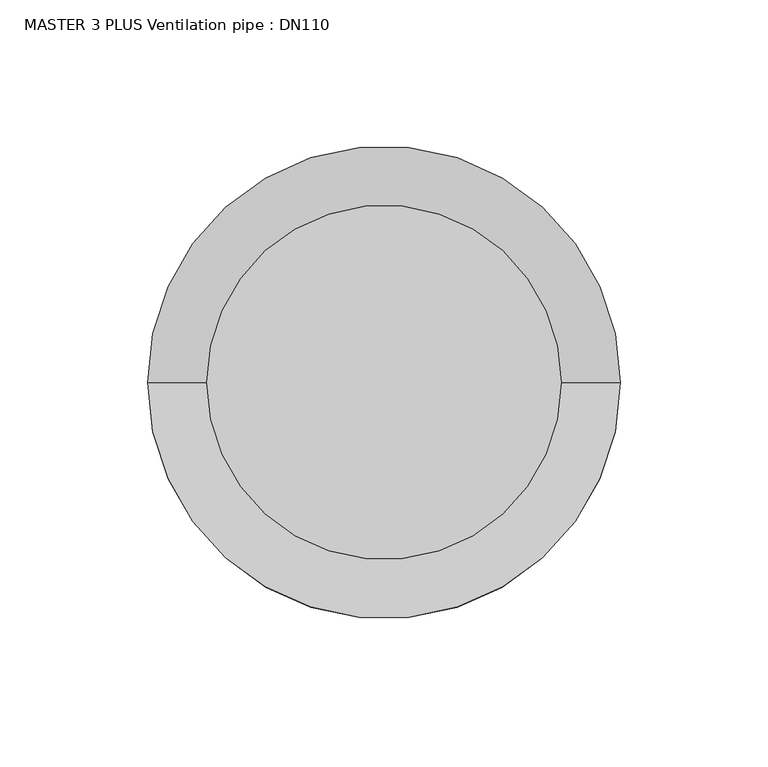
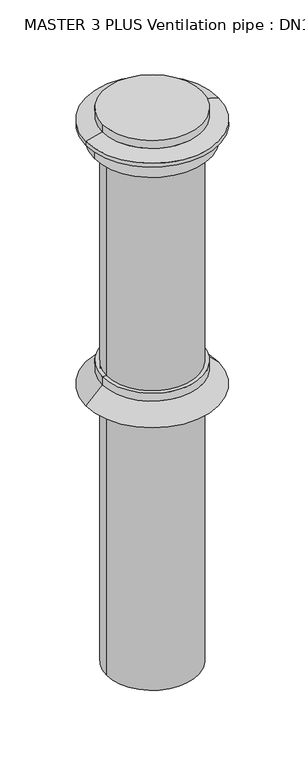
"""IFC4 building model written with IfcOpenShell, lengths in millimetres: valve geometry, MASTER 3 PLUS Ventilation pipe : DN110."""

from ifc_helpers import new_model, si_unit, frame, origin, origin_with_axes, place, context, project, spatial, polyline, circle_curve, source, transform, mapped, element, save
from ifc_brep_helpers import plane_surface, cylinder_surface, revolved_surface, advanced_brep


def master_3_plus_ventilation_pipe_dn110_6ec2a00a(model_context):
    return source(origin(), model_context, "Body", "AdvancedBrep", [
        advanced_brep(
        [(60.0, 0.0, 705.0), (-60.0, 0.0, 705.0), (-55.0, 0.0, 0.0), (55.0, 0.0, 0.0), (55.0, 0.0, 664.8236191), (-55.0, 0.0, 664.8236191), (60.0, 0.0, 695.0), (-60.0, 0.0, 695.0), (80.0, 0.0, 689.8236191), (-80.0, 0.0, 689.8236191), (80.0, 0.0, 684.8236191), (-80.0, 0.0, 684.8236191), (70.0, 0.0, 684.8236191), (-70.0, 0.0, 684.8236191), (70.0, 0.0, 664.8236191), (-70.0, 0.0, 664.8236191)],
        [
            (0, 1, circle_curve(frame((0.0, 0.0, 705.0), z_axis=(0.0, 0.0, 1.0), x_axis=(-1.0, 0.0, 0.0)), 60.0)),
            (1, 0, circle_curve(frame((0.0, 0.0, 705.0), z_axis=(0.0, 0.0, 1.0), x_axis=(-1.0, 0.0, 0.0)), 60.0)),
            (2, 3, circle_curve(frame((0.0, 0.0, 0.0), z_axis=(0.0, 0.0, -1.0), x_axis=(1.0, 0.0, 0.0)), 55.0)),
            (3, 2, circle_curve(frame((0.0, 0.0, 0.0), z_axis=(0.0, 0.0, -1.0), x_axis=(1.0, 0.0, 0.0)), 55.0)),
            (3, 4),
            (4, 5, circle_curve(frame((0.0, 0.0, 664.8236191), z_axis=(0.0, 0.0, -1.0), x_axis=(1.0, 0.0, 0.0)), 55.0)),
            (5, 2),
            (5, 4, circle_curve(frame((0.0, 0.0, 664.8236191), z_axis=(0.0, 0.0, -1.0), x_axis=(1.0, 0.0, 0.0)), 55.0)),
            (6, 7, circle_curve(frame((0.0, 0.0, 695.0), z_axis=(0.0, 0.0, 1.0), x_axis=(-1.0, 0.0, 0.0)), 60.0)),
            (7, 1),
            (0, 6),
            (7, 6, circle_curve(frame((0.0, 0.0, 695.0), z_axis=(0.0, 0.0, 1.0), x_axis=(-1.0, 0.0, 0.0)), 60.0)),
            (6, 8),
            (8, 9, circle_curve(frame((0.0, 0.0, 689.8236191), z_axis=(0.0, 0.0, 1.0), x_axis=(-1.0, 0.0, 0.0)), 80.0)),
            (9, 7),
            (9, 8, circle_curve(frame((0.0, 0.0, 689.8236191), z_axis=(0.0, 0.0, 1.0), x_axis=(-1.0, 0.0, 0.0)), 80.0)),
            (8, 10),
            (10, 11, circle_curve(frame((0.0, 0.0, 684.8236191), z_axis=(0.0, 0.0, 1.0), x_axis=(-1.0, 0.0, 0.0)), 80.0)),
            (11, 9),
            (11, 10, circle_curve(frame((0.0, 0.0, 684.8236191), z_axis=(0.0, 0.0, 1.0), x_axis=(-1.0, 0.0, 0.0)), 80.0)),
            (10, 12),
            (12, 13, circle_curve(frame((0.0, 0.0, 684.8236191), z_axis=(0.0, 0.0, 1.0), x_axis=(-1.0, 0.0, 0.0)), 70.0)),
            (13, 11),
            (13, 12, circle_curve(frame((0.0, 0.0, 684.8236191), z_axis=(0.0, 0.0, 1.0), x_axis=(-1.0, 0.0, 0.0)), 70.0)),
            (12, 14),
            (14, 15, circle_curve(frame((0.0, 0.0, 664.8236191), z_axis=(0.0, 0.0, 1.0), x_axis=(-1.0, 0.0, 0.0)), 70.0)),
            (15, 13),
            (15, 14, circle_curve(frame((0.0, 0.0, 664.8236191), z_axis=(0.0, 0.0, 1.0), x_axis=(-1.0, 0.0, 0.0)), 70.0)),
            (14, 4),
            (5, 15),
        ],
        [
            plane_surface(frame((55.0, 0.0, 705.0), z_axis=(0.0, 0.0, 1.0), x_axis=(0.0, 1.0, 0.0))),
            plane_surface(frame((55.0, 0.0, 0.0), z_axis=(0.0, 0.0, -1.0), x_axis=(0.0, -1.0, 0.0))),
            cylinder_surface(origin_with_axes(), 55.0),
            cylinder_surface(frame((0.0, 0.0, 705.0), z_axis=(0.0, 0.0, -1.0), x_axis=(-1.0, 0.0, 0.0)), 60.0),
            revolved_surface(polyline([(-60.0, 0.0, 695.0), (-80.0, 0.0, 689.8236191)]), (0.0, 0.0, 705.0), (0.0, 0.0, -1.0)),
            cylinder_surface(frame((0.0, 0.0, 705.0), z_axis=(0.0, 0.0, -1.0), x_axis=(-1.0, 0.0, 0.0)), 80.0),
            plane_surface(frame((0.0, 0.0, 684.8236191), z_axis=(0.0, 0.0, -1.0), x_axis=(-1.0, 0.0, 0.0))),
            cylinder_surface(frame((0.0, 0.0, 705.0), z_axis=(0.0, 0.0, -1.0), x_axis=(-1.0, 0.0, 0.0)), 70.0),
            plane_surface(frame((0.0, 0.0, 664.8236191), z_axis=(0.0, 0.0, -1.0), x_axis=(-1.0, 0.0, 0.0))),
        ],
        [
            (0, [[1, 2]]),
            (1, [[3, 4]]),
            (2, [[-4, 5, 6, 7]]),
            (2, [[-3, -7, 8, -5]]),
            (3, [[9, 10, -1, 11]]),
            (3, [[-10, 12, -11, -2]]),
            (4, [[-9, 13, 14, 15]]),
            (4, [[-12, -15, 16, -13]]),
            (5, [[-14, 17, 18, 19]]),
            (5, [[-16, -19, 20, -17]]),
            (6, [[-18, 21, 22, 23]]),
            (6, [[-20, -23, 24, -21]]),
            (7, [[-22, 25, 26, 27]]),
            (7, [[-24, -27, 28, -25]]),
            (8, [[-26, 29, -8, 30]]),
            (8, [[-28, -30, -6, -29]]),
        ],
    ),
        advanced_brep(
        [(60.0, 0.0, 372.5), (-60.0, 0.0, 372.5), (-60.0, 0.0, 382.5), (60.0, 0.0, 382.5), (80.0, 0.0, 352.5), (-80.0, 0.0, 352.5), (0.0, 0.0, 352.5), (0.0, 0.0, 382.5)],
        [
            (0, 1, circle_curve(frame((0.0, 0.0, 372.5), z_axis=(0.0, 0.0, 1.0), x_axis=(-1.0, 0.0, 0.0)), 60.0)),
            (1, 2),
            (2, 3, circle_curve(frame((0.0, 0.0, 382.5), z_axis=(0.0, 0.0, -1.0), x_axis=(-1.0, 0.0, 0.0)), 60.0)),
            (3, 0),
            (1, 0, circle_curve(frame((0.0, 0.0, 372.5), z_axis=(0.0, 0.0, 1.0), x_axis=(-1.0, 0.0, 0.0)), 60.0)),
            (3, 2, circle_curve(frame((0.0, 0.0, 382.5), z_axis=(0.0, 0.0, -1.0), x_axis=(-1.0, 0.0, 0.0)), 60.0)),
            (4, 5, circle_curve(frame((0.0, 0.0, 352.5), z_axis=(0.0, 0.0, 1.0), x_axis=(-1.0, 0.0, 0.0)), 80.0)),
            (5, 1),
            (0, 4),
            (5, 4, circle_curve(frame((0.0, 0.0, 352.5), z_axis=(0.0, 0.0, 1.0), x_axis=(-1.0, 0.0, 0.0)), 80.0)),
            (6, 5),
            (4, 6),
            (2, 7),
            (7, 3),
        ],
        [
            cylinder_surface(frame((0.0, 0.0, 382.5), z_axis=(0.0, 0.0, -1.0), x_axis=(-1.0, 0.0, 0.0)), 60.0),
            revolved_surface(polyline([(-60.0, 0.0, 372.5), (-80.0, 0.0, 352.5)]), (0.0, 0.0, 382.5), (0.0, 0.0, -1.0)),
            plane_surface(frame((0.0, 0.0, 352.5), z_axis=(0.0, 0.0, -1.0), x_axis=(-1.0, 0.0, 0.0))),
            plane_surface(frame((0.0, 0.0, 382.5), z_axis=(0.0, 0.0, 1.0), x_axis=(-1.0, 0.0, 0.0))),
        ],
        [
            (0, [[1, 2, 3, 4]]),
            (0, [[5, -4, 6, -2]]),
            (1, [[7, 8, -1, 9]]),
            (1, [[10, -9, -5, -8]]),
            (2, [[11, -7, 12]]),
            (2, [[-12, -10, -11]]),
            (3, [[-3, 13, 14]]),
            (3, [[-6, -14, -13]]),
        ],
    ),
    ])


if __name__ == "__main__":
    model = new_model("IFC4")
    model_context = context("Model", 3, world=origin())
    ifc_project = project(units=[si_unit("LENGTHUNIT", "METRE", prefix="MILLI")], contexts=[model_context])
    site = spatial("IfcSite", under=ifc_project)
    building = spatial("IfcBuilding", under=site)
    placement = place(None, origin())
    master_3_plus_ventilation_pipe_dn110_shape = master_3_plus_ventilation_pipe_dn110_6ec2a00a(model_context)
    element("IfcValve", 1, ObjectType="MASTER 3 PLUS Ventilation pipe : DN110", at=placement, inside=building, context=model_context, shape_type="MappedRepresentation", body=[
        mapped(master_3_plus_ventilation_pipe_dn110_shape, transform((0.0, 0.0, 0.0), x_axis=(1.0, 0.0, 0.0), y_axis=(0.0, 1.0, 0.0), z_axis=(0.0, 0.0, 1.0))),
    ])
    save(model, "model.ifc")
